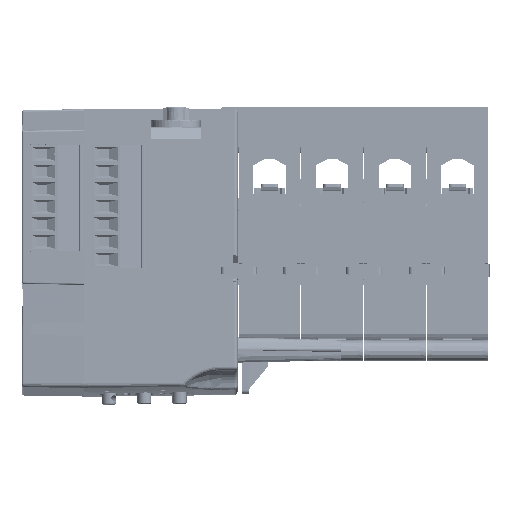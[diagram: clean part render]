
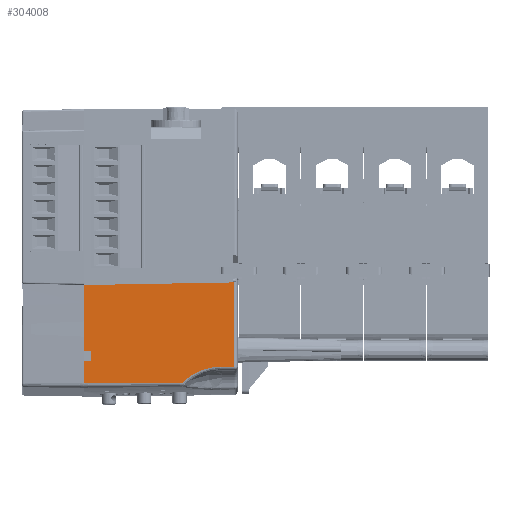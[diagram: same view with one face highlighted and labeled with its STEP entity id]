
A CAD part, left-side view. The second image highlights one B-rep face of the part: STEP entity #304008.
In plain terms, the highlighted planar face has unit normal (-1, -0.018, 0).
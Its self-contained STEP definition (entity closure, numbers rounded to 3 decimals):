
#286322=DIRECTION('',(0.,0.,-1.));
#286323=VECTOR('',#286322,23.942);
#286324=CARTESIAN_POINT('',(-21.753,0.983,
-49.253));
#286325=LINE('',#286324,#286323);
#290038=DIRECTION('',(0.,0.,1.));
#290039=VECTOR('',#290038,6.195);
#290040=CARTESIAN_POINT('',(-22.5,43.75,-77.845));
#290041=LINE('',#290040,#290039);
#290061=DIRECTION('',(-0.017,1.,-0.017));
#290062=VECTOR('',#290061,42.78);
#290063=CARTESIAN_POINT('',(-21.753,0.983,
-49.253));
#290064=LINE('',#290063,#290062);
#292960=DIRECTION('',(0.,0.,1.));
#292961=VECTOR('',#292960,18.65);
#292962=CARTESIAN_POINT('',(-22.5,43.75,-68.65));
#292963=LINE('',#292962,#292961);
#292972=DIRECTION('',(-0.017,1.,0.017));
#292973=VECTOR('',#292972,2.001);
#292974=CARTESIAN_POINT('',(-22.465,41.75,-68.685));
#292975=LINE('',#292974,#292973);
#292980=DIRECTION('',(0.,0.,1.));
#292981=VECTOR('',#292980,2.93);
#292982=CARTESIAN_POINT('',(-22.465,41.75,-71.615));
#292983=LINE('',#292982,#292981);
#292988=DIRECTION('',(0.017,-1.,0.017));
#292989=VECTOR('',#292988,2.001);
#292990=CARTESIAN_POINT('',(-22.5,43.75,-71.65));
#292991=LINE('',#292990,#292989);
#293751=DIRECTION('',(-0.017,1.,0.));
#293752=VECTOR('',#293751,28.158);
#293753=CARTESIAN_POINT('',(-22.008,15.596,
-77.845));
#293754=LINE('',#293753,#293752);
#293772=CARTESIAN_POINT('',(-21.815,4.483,
-73.179));
#293773=CARTESIAN_POINT('',(-21.831,5.445,
-73.175));
#293774=CARTESIAN_POINT('',(-21.863,7.249,
-73.338));
#293775=CARTESIAN_POINT('',(-21.904,9.592,
-73.939));
#293776=CARTESIAN_POINT('',(-21.938,11.567,
-74.761));
#293777=CARTESIAN_POINT('',(-21.967,13.218,
-75.718));
#293778=CARTESIAN_POINT('',(-21.991,14.575,
-76.755));
#293779=CARTESIAN_POINT('',(-22.003,15.292,
-77.473));
#293780=CARTESIAN_POINT('',(-22.008,15.596,
-77.845));
#293786=DIRECTION('',(-0.017,1.,0.005));
#293787=VECTOR('',#293786,3.501);
#293788=CARTESIAN_POINT('',(-21.753,0.983,
-73.196));
#293789=LINE('',#293788,#293787);
#296646=CARTESIAN_POINT('',(-21.753,0.983,
-49.253));
#296647=VERTEX_POINT('',#296646);
#296656=CARTESIAN_POINT('',(-22.5,43.75,-50.));
#296657=VERTEX_POINT('',#296656);
#296662=CARTESIAN_POINT('',(-21.753,0.983,
-73.196));
#296663=VERTEX_POINT('',#296662);
#296664=CARTESIAN_POINT('',(-21.815,4.483,
-73.179));
#296665=VERTEX_POINT('',#296664);
#296666=VERTEX_POINT('',#293780);
#296667=CARTESIAN_POINT('',(-22.5,43.75,-77.845));
#296668=VERTEX_POINT('',#296667);
#296669=CARTESIAN_POINT('',(-22.5,43.75,-71.65));
#296670=VERTEX_POINT('',#296669);
#296671=CARTESIAN_POINT('',(-22.465,41.75,-71.615));
#296672=VERTEX_POINT('',#296671);
#296673=CARTESIAN_POINT('',(-22.465,41.75,-68.685));
#296674=VERTEX_POINT('',#296673);
#296675=CARTESIAN_POINT('',(-22.5,43.75,-68.65));
#296676=VERTEX_POINT('',#296675);
#303983=CARTESIAN_POINT('',(-22.5,43.75,-81.846));
#303984=DIRECTION('',(-1.,-0.017,0.));
#303985=DIRECTION('',(0.,0.,1.));
#303986=AXIS2_PLACEMENT_3D('',#303983,#303984,#303985);
#303987=PLANE('',#303986);
#303989=ORIENTED_EDGE('',*,*,#303988,.F.);
#303990=ORIENTED_EDGE('',*,*,#299334,.T.);
#303992=ORIENTED_EDGE('',*,*,#303991,.T.);
#303994=ORIENTED_EDGE('',*,*,#303993,.T.);
#303996=ORIENTED_EDGE('',*,*,#303995,.T.);
#303997=ORIENTED_EDGE('',*,*,#303968,.T.);
#303999=ORIENTED_EDGE('',*,*,#303998,.T.);
#304001=ORIENTED_EDGE('',*,*,#304000,.T.);
#304003=ORIENTED_EDGE('',*,*,#304002,.T.);
#304005=ORIENTED_EDGE('',*,*,#304004,.T.);
#304006=EDGE_LOOP('',(#303989,#303990,#303992,#303994,#303996,#303997,#303999,
#304001,#304003,#304005));
#304007=FACE_OUTER_BOUND('',#304006,.F.);
#293781=B_SPLINE_CURVE_WITH_KNOTS('',3,(#293772,#293773,#293774,#293775,#293776,
#293777,#293778,#293779,#293780),.UNSPECIFIED.,.F.,.F.,(4,1,1,1,1,1,4),(0.,
0.167,0.333,0.5,0.667,0.833,
1.),.UNSPECIFIED.);
#299334=EDGE_CURVE('',#296647,#296663,#286325,.T.);
#303968=EDGE_CURVE('',#296668,#296670,#290041,.T.);
#303988=EDGE_CURVE('',#296647,#296657,#290064,.T.);
#303991=EDGE_CURVE('',#296663,#296665,#293789,.T.);
#303993=EDGE_CURVE('',#296665,#296666,#293781,.T.);
#303995=EDGE_CURVE('',#296666,#296668,#293754,.T.);
#303998=EDGE_CURVE('',#296670,#296672,#292991,.T.);
#304000=EDGE_CURVE('',#296672,#296674,#292983,.T.);
#304002=EDGE_CURVE('',#296674,#296676,#292975,.T.);
#304004=EDGE_CURVE('',#296676,#296657,#292963,.T.);
#304008=ADVANCED_FACE('',(#304007),#303987,.T.);
